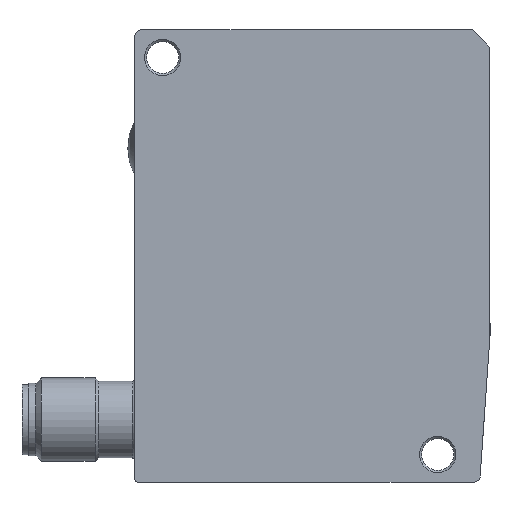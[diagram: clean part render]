
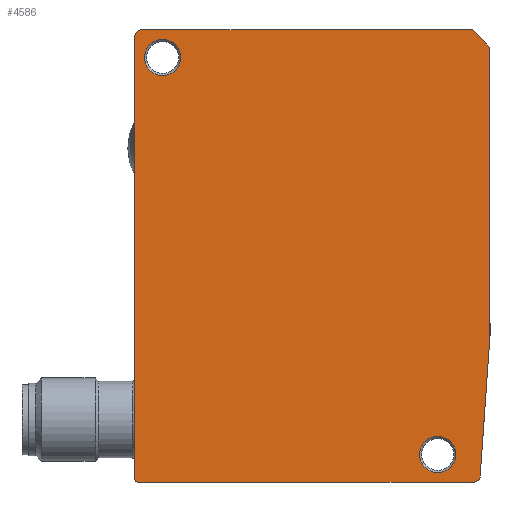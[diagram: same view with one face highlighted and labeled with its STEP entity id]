
A CAD part, left-side view. The second image highlights one B-rep face of the part: STEP entity #4586.
In plain terms, the highlighted planar face has unit normal (-1, 0, 0).
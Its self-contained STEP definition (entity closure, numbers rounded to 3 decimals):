
#251=LINE('',#6758,#540);
#256=LINE('',#6772,#545);
#258=LINE('',#6780,#547);
#262=LINE('',#6787,#551);
#265=LINE('',#6792,#554);
#266=LINE('',#6794,#555);
#540=VECTOR('',#5711,1000.);
#545=VECTOR('',#5724,1000.);
#547=VECTOR('',#5734,1000.);
#551=VECTOR('',#5742,1000.);
#554=VECTOR('',#5747,1000.);
#555=VECTOR('',#5748,1000.);
#697=PLANE('',#4909);
#1455=ORIENTED_EDGE('',*,*,#2004,.T.);
#1456=ORIENTED_EDGE('',*,*,#2003,.T.);
#1457=ORIENTED_EDGE('',*,*,#2056,.F.);
#1458=ORIENTED_EDGE('',*,*,#2059,.T.);
#1459=ORIENTED_EDGE('',*,*,#2060,.F.);
#1460=ORIENTED_EDGE('',*,*,#2043,.T.);
#1461=ORIENTED_EDGE('',*,*,#2064,.F.);
#1462=ORIENTED_EDGE('',*,*,#2067,.F.);
#1463=ORIENTED_EDGE('',*,*,#2068,.T.);
#1464=ORIENTED_EDGE('',*,*,#2049,.F.);
#1465=ORIENTED_EDGE('',*,*,#2053,.T.);
#2003=EDGE_CURVE('',#2389,#2389,#2615,.T.);
#2004=EDGE_CURVE('',#2390,#2390,#2616,.T.);
#2043=EDGE_CURVE('',#2411,#2412,#2628,.F.);
#2049=EDGE_CURVE('',#2417,#2418,#251,.T.);
#2053=EDGE_CURVE('',#2417,#2420,#2631,.F.);
#2056=EDGE_CURVE('',#2422,#2420,#256,.T.);
#2059=EDGE_CURVE('',#2422,#2424,#2633,.F.);
#2060=EDGE_CURVE('',#2411,#2424,#258,.T.);
#2064=EDGE_CURVE('',#2425,#2412,#262,.T.);
#2067=EDGE_CURVE('',#2427,#2425,#265,.T.);
#2068=EDGE_CURVE('',#2427,#2418,#266,.F.);
#2389=VERTEX_POINT('',#6661);
#2390=VERTEX_POINT('',#6664);
#2411=VERTEX_POINT('',#6745);
#2412=VERTEX_POINT('',#6746);
#2417=VERTEX_POINT('',#6757);
#2418=VERTEX_POINT('',#6759);
#2420=VERTEX_POINT('',#6765);
#2422=VERTEX_POINT('',#6771);
#2424=VERTEX_POINT('',#6777);
#2425=VERTEX_POINT('',#6786);
#2427=VERTEX_POINT('',#6793);
#2615=CIRCLE('',#4861,2.6);
#2616=CIRCLE('',#4863,2.6);
#2628=CIRCLE('',#4896,1.);
#2631=CIRCLE('',#4901,1.);
#2633=CIRCLE('',#4905,0.5);
#2851=EDGE_LOOP('',(#1455));
#2852=EDGE_LOOP('',(#1456));
#2853=EDGE_LOOP('',(#1457,#1458,#1459,#1460,#1461,#1462,#1463,#1464,#1465));
#3085=FACE_BOUND('',#2851,.T.);
#3086=FACE_BOUND('',#2852,.T.);
#3087=FACE_BOUND('',#2853,.T.);
#4586=ADVANCED_FACE('',(#3085,#3086,#3087),#697,.F.);
#4861=AXIS2_PLACEMENT_3D('',#6660,#5604,#5605);
#4863=AXIS2_PLACEMENT_3D('',#6663,#5608,#5609);
#4896=AXIS2_PLACEMENT_3D('',#6744,#5701,#5702);
#4901=AXIS2_PLACEMENT_3D('',#6766,#5718,#5719);
#4905=AXIS2_PLACEMENT_3D('',#6778,#5730,#5731);
#4909=AXIS2_PLACEMENT_3D('',#6791,#5745,#5746);
#5604=DIRECTION('',(1.,0.,0.));
#5605=DIRECTION('',(0.,1.,0.));
#5608=DIRECTION('',(1.,0.,0.));
#5609=DIRECTION('',(0.,1.,0.));
#5701=DIRECTION('',(1.,0.,0.));
#5702=DIRECTION('',(0.,1.,0.));
#5711=DIRECTION('',(0.,-1.,0.));
#5718=DIRECTION('',(1.,0.,0.));
#5719=DIRECTION('',(0.,1.,0.));
#5724=DIRECTION('',(0.,0.,1.));
#5730=DIRECTION('',(1.,0.,0.));
#5731=DIRECTION('',(0.,1.,0.));
#5734=DIRECTION('',(0.,1.,0.));
#5742=DIRECTION('',(0.,0.07,-0.998));
#5745=DIRECTION('',(1.,0.,0.));
#5746=DIRECTION('',(0.,1.,0.));
#5747=DIRECTION('',(0.,0.,-1.));
#5748=DIRECTION('',(0.,-0.707,-0.707));
#6660=CARTESIAN_POINT('',(0.,-18.,-28.5));
#6661=CARTESIAN_POINT('',(0.,-15.4,-28.5));
#6663=CARTESIAN_POINT('',(0.,21.5,28.5));
#6664=CARTESIAN_POINT('',(0.,24.1,28.5));
#6744=CARTESIAN_POINT('',(0.,-23.092,-31.5));
#6745=CARTESIAN_POINT('',(0.,-23.092,-32.5));
#6746=CARTESIAN_POINT('',(0.,-24.09,-31.57));
#6757=CARTESIAN_POINT('',(0.,24.5,32.5));
#6758=CARTESIAN_POINT('',(0.,25.5,32.5));
#6759=CARTESIAN_POINT('',(0.,-23.,32.5));
#6765=CARTESIAN_POINT('',(0.,25.5,31.5));
#6766=CARTESIAN_POINT('',(0.,24.5,31.5));
#6771=CARTESIAN_POINT('',(0.,25.5,-32.));
#6772=CARTESIAN_POINT('',(0.,25.5,-32.5));
#6777=CARTESIAN_POINT('',(0.,25.,-32.5));
#6778=CARTESIAN_POINT('',(0.,25.,-32.));
#6780=CARTESIAN_POINT('',(0.,-25.5,-32.5));
#6786=CARTESIAN_POINT('',(0.,-25.5,-11.4));
#6787=CARTESIAN_POINT('',(0.,-24.032,-32.397));
#6791=CARTESIAN_POINT('',(0.,-25.5,-32.5));
#6792=CARTESIAN_POINT('',(0.,-25.5,32.5));
#6793=CARTESIAN_POINT('',(0.,-25.5,30.));
#6794=CARTESIAN_POINT('',(0.,-25.5,30.));
